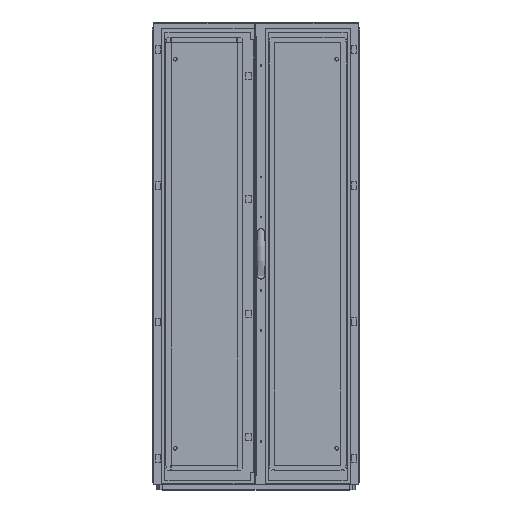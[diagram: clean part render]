
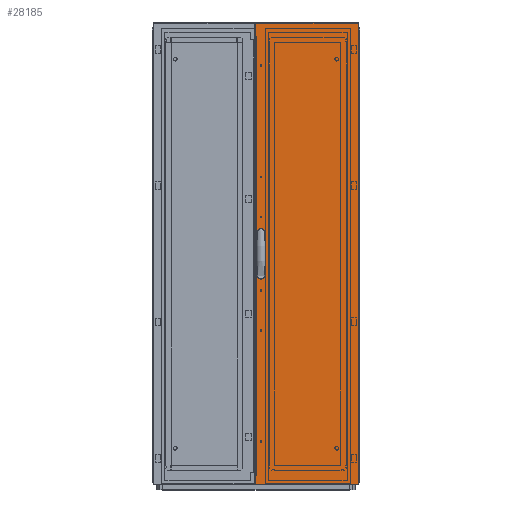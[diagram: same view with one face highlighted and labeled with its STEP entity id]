
A CAD part, top view. The second image highlights one B-rep face of the part: STEP entity #28185.
In plain terms, the highlighted planar face has unit normal (0, 0, 1) as drawn and (0, 0, -1) by its records, which use the part's own axes.
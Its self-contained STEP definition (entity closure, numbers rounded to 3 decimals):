
#341=CIRCLE('',#31742,2.6);
#342=CIRCLE('',#31743,2.6);
#2904=ORIENTED_EDGE('',*,*,#9924,.T.);
#2905=ORIENTED_EDGE('',*,*,#9925,.T.);
#2906=ORIENTED_EDGE('',*,*,#9926,.T.);
#2907=ORIENTED_EDGE('',*,*,#9927,.T.);
#2908=ORIENTED_EDGE('',*,*,#9928,.T.);
#2909=ORIENTED_EDGE('',*,*,#9929,.T.);
#2910=ORIENTED_EDGE('',*,*,#9930,.T.);
#2911=ORIENTED_EDGE('',*,*,#9931,.T.);
#2912=ORIENTED_EDGE('',*,*,#9932,.T.);
#2913=ORIENTED_EDGE('',*,*,#9933,.T.);
#2914=ORIENTED_EDGE('',*,*,#9934,.T.);
#2915=ORIENTED_EDGE('',*,*,#9935,.T.);
#2916=ORIENTED_EDGE('',*,*,#9936,.T.);
#2917=ORIENTED_EDGE('',*,*,#9937,.T.);
#2918=ORIENTED_EDGE('',*,*,#9938,.T.);
#2919=ORIENTED_EDGE('',*,*,#9939,.T.);
#2920=ORIENTED_EDGE('',*,*,#9940,.T.);
#2921=ORIENTED_EDGE('',*,*,#9941,.F.);
#2922=ORIENTED_EDGE('',*,*,#9942,.F.);
#2923=ORIENTED_EDGE('',*,*,#9943,.T.);
#2924=ORIENTED_EDGE('',*,*,#9944,.T.);
#2925=ORIENTED_EDGE('',*,*,#9945,.T.);
#9924=EDGE_CURVE('',#13612,#13613,#16547,.T.);
#9925=EDGE_CURVE('',#13613,#13614,#16548,.T.);
#9926=EDGE_CURVE('',#13614,#13615,#16549,.T.);
#9927=EDGE_CURVE('',#13615,#13616,#16550,.T.);
#9928=EDGE_CURVE('',#13616,#13617,#16551,.T.);
#9929=EDGE_CURVE('',#13617,#13618,#16552,.T.);
#9930=EDGE_CURVE('',#13618,#13619,#16553,.T.);
#9931=EDGE_CURVE('',#13619,#13620,#16554,.T.);
#9932=EDGE_CURVE('',#13620,#13621,#16555,.T.);
#9933=EDGE_CURVE('',#13621,#13622,#16556,.T.);
#9934=EDGE_CURVE('',#13622,#13623,#16557,.T.);
#9935=EDGE_CURVE('',#13623,#13624,#16558,.T.);
#9936=EDGE_CURVE('',#13624,#13625,#16559,.T.);
#9937=EDGE_CURVE('',#13625,#13626,#16560,.T.);
#9938=EDGE_CURVE('',#13626,#13627,#16561,.T.);
#9939=EDGE_CURVE('',#13627,#13612,#16562,.T.);
#9940=EDGE_CURVE('',#13628,#13629,#16563,.T.);
#9941=EDGE_CURVE('',#13630,#13629,#16564,.T.);
#9942=EDGE_CURVE('',#13631,#13630,#16565,.T.);
#9943=EDGE_CURVE('',#13631,#13628,#16566,.T.);
#9944=EDGE_CURVE('',#13632,#13632,#341,.T.);
#9945=EDGE_CURVE('',#13633,#13633,#342,.T.);
#13612=VERTEX_POINT('',#42969);
#13613=VERTEX_POINT('',#42970);
#13614=VERTEX_POINT('',#42972);
#13615=VERTEX_POINT('',#42974);
#13616=VERTEX_POINT('',#42976);
#13617=VERTEX_POINT('',#42978);
#13618=VERTEX_POINT('',#42980);
#13619=VERTEX_POINT('',#42982);
#13620=VERTEX_POINT('',#42984);
#13621=VERTEX_POINT('',#42986);
#13622=VERTEX_POINT('',#42988);
#13623=VERTEX_POINT('',#42990);
#13624=VERTEX_POINT('',#42992);
#13625=VERTEX_POINT('',#42994);
#13626=VERTEX_POINT('',#42996);
#13627=VERTEX_POINT('',#42998);
#13628=VERTEX_POINT('',#43001);
#13629=VERTEX_POINT('',#43002);
#13630=VERTEX_POINT('',#43004);
#13631=VERTEX_POINT('',#43006);
#13632=VERTEX_POINT('',#43009);
#13633=VERTEX_POINT('',#43011);
#16547=LINE('',#42968,#20166);
#16548=LINE('',#42971,#20167);
#16549=LINE('',#42973,#20168);
#16550=LINE('',#42975,#20169);
#16551=LINE('',#42977,#20170);
#16552=LINE('',#42979,#20171);
#16553=LINE('',#42981,#20172);
#16554=LINE('',#42983,#20173);
#16555=LINE('',#42985,#20174);
#16556=LINE('',#42987,#20175);
#16557=LINE('',#42989,#20176);
#16558=LINE('',#42991,#20177);
#16559=LINE('',#42993,#20178);
#16560=LINE('',#42995,#20179);
#16561=LINE('',#42997,#20180);
#16562=LINE('',#42999,#20181);
#16563=LINE('',#43000,#20182);
#16564=LINE('',#43003,#20183);
#16565=LINE('',#43005,#20184);
#16566=LINE('',#43007,#20185);
#20166=VECTOR('',#35151,1000.);
#20167=VECTOR('',#35152,1000.);
#20168=VECTOR('',#35153,1000.);
#20169=VECTOR('',#35154,1000.);
#20170=VECTOR('',#35155,1000.);
#20171=VECTOR('',#35156,1000.);
#20172=VECTOR('',#35157,1000.);
#20173=VECTOR('',#35158,1000.);
#20174=VECTOR('',#35159,1000.);
#20175=VECTOR('',#35160,1000.);
#20176=VECTOR('',#35161,1000.);
#20177=VECTOR('',#35162,1000.);
#20178=VECTOR('',#35163,1000.);
#20179=VECTOR('',#35164,1000.);
#20180=VECTOR('',#35165,1000.);
#20181=VECTOR('',#35166,1000.);
#20182=VECTOR('',#35167,1000.);
#20183=VECTOR('',#35168,1000.);
#20184=VECTOR('',#35169,1000.);
#20185=VECTOR('',#35170,1000.);
#23353=EDGE_LOOP('',(#2904,#2905,#2906,#2907,#2908,#2909,#2910,#2911,#2912,
#2913,#2914,#2915,#2916,#2917,#2918,#2919));
#23354=EDGE_LOOP('',(#2920,#2921,#2922,#2923));
#23355=EDGE_LOOP('',(#2924));
#23356=EDGE_LOOP('',(#2925));
#25149=FACE_BOUND('',#23353,.T.);
#25150=FACE_BOUND('',#23354,.T.);
#25151=FACE_BOUND('',#23355,.T.);
#25152=FACE_BOUND('',#23356,.T.);
#26799=PLANE('',#31741);
#28185=ADVANCED_FACE('',(#25149,#25150,#25151,#25152),#26799,.F.);
#31741=AXIS2_PLACEMENT_3D('',#42967,#35149,#35150);
#31742=AXIS2_PLACEMENT_3D('',#43008,#35171,#35172);
#31743=AXIS2_PLACEMENT_3D('',#43010,#35173,#35174);
#35149=DIRECTION('',(0.,0.,1.));
#35150=DIRECTION('',(1.,0.,0.));
#35151=DIRECTION('',(0.,-1.,0.));
#35152=DIRECTION('',(0.342,-0.94,0.));
#35153=DIRECTION('',(1.,0.,0.));
#35154=DIRECTION('',(0.,1.,0.));
#35155=DIRECTION('',(1.,0.,0.));
#35156=DIRECTION('',(0.,-1.,0.));
#35157=DIRECTION('',(1.,0.,0.));
#35158=DIRECTION('',(0.342,0.94,0.));
#35159=DIRECTION('',(0.,1.,0.));
#35160=DIRECTION('',(-0.342,0.94,0.));
#35161=DIRECTION('',(-1.,0.,0.));
#35162=DIRECTION('',(0.,-1.,0.));
#35163=DIRECTION('',(-1.,0.,0.));
#35164=DIRECTION('',(0.,1.,0.));
#35165=DIRECTION('',(-1.,0.,0.));
#35166=DIRECTION('',(-0.342,-0.94,0.));
#35167=DIRECTION('',(-1.,0.,0.));
#35168=DIRECTION('',(0.,-1.,0.));
#35169=DIRECTION('',(-1.,0.,0.));
#35170=DIRECTION('',(0.,-1.,0.));
#35171=DIRECTION('',(0.,0.,1.));
#35172=DIRECTION('',(1.,0.,0.));
#35173=DIRECTION('',(0.,0.,1.));
#35174=DIRECTION('',(1.,0.,0.));
#42967=CARTESIAN_POINT('',(199.,1782.,-16.8));
#42968=CARTESIAN_POINT('',(165.45,956.256,-16.8));
#42969=CARTESIAN_POINT('',(165.45,956.256,-16.8));
#42970=CARTESIAN_POINT('',(165.45,825.744,-16.8));
#42971=CARTESIAN_POINT('',(165.45,825.744,-16.8));
#42972=CARTESIAN_POINT('',(167.45,820.25,-16.8));
#42973=CARTESIAN_POINT('',(167.45,820.25,-16.8));
#42974=CARTESIAN_POINT('',(172.7,820.25,-16.8));
#42975=CARTESIAN_POINT('',(172.7,820.25,-16.8));
#42976=CARTESIAN_POINT('',(172.7,828.,-16.8));
#42977=CARTESIAN_POINT('',(172.7,828.,-16.8));
#42978=CARTESIAN_POINT('',(183.7,828.,-16.8));
#42979=CARTESIAN_POINT('',(183.7,828.,-16.8));
#42980=CARTESIAN_POINT('',(183.7,820.25,-16.8));
#42981=CARTESIAN_POINT('',(183.7,820.25,-16.8));
#42982=CARTESIAN_POINT('',(188.95,820.25,-16.8));
#42983=CARTESIAN_POINT('',(188.95,820.25,-16.8));
#42984=CARTESIAN_POINT('',(190.95,825.744,-16.8));
#42985=CARTESIAN_POINT('',(190.95,825.744,-16.8));
#42986=CARTESIAN_POINT('',(190.95,956.256,-16.8));
#42987=CARTESIAN_POINT('',(190.95,956.256,-16.8));
#42988=CARTESIAN_POINT('',(188.95,961.75,-16.8));
#42989=CARTESIAN_POINT('',(188.95,961.75,-16.8));
#42990=CARTESIAN_POINT('',(183.7,961.75,-16.8));
#42991=CARTESIAN_POINT('',(183.7,961.75,-16.8));
#42992=CARTESIAN_POINT('',(183.7,954.,-16.8));
#42993=CARTESIAN_POINT('',(183.7,954.,-16.8));
#42994=CARTESIAN_POINT('',(172.7,954.,-16.8));
#42995=CARTESIAN_POINT('',(172.7,954.,-16.8));
#42996=CARTESIAN_POINT('',(172.7,961.75,-16.8));
#42997=CARTESIAN_POINT('',(172.7,961.75,-16.8));
#42998=CARTESIAN_POINT('',(167.45,961.75,-16.8));
#42999=CARTESIAN_POINT('',(167.45,961.75,-16.8));
#43000=CARTESIAN_POINT('',(199.,0.,-16.8));
#43001=CARTESIAN_POINT('',(199.,0.,-16.8));
#43002=CARTESIAN_POINT('',(-199.,0.,-16.8));
#43003=CARTESIAN_POINT('',(-199.,1782.,-16.8));
#43004=CARTESIAN_POINT('',(-199.,1782.,-16.8));
#43005=CARTESIAN_POINT('',(199.,1782.,-16.8));
#43006=CARTESIAN_POINT('',(199.,1782.,-16.8));
#43007=CARTESIAN_POINT('',(199.,1782.,-16.8));
#43008=CARTESIAN_POINT('',(178.2,961.,-16.8));
#43009=CARTESIAN_POINT('',(180.8,961.,-16.8));
#43010=CARTESIAN_POINT('',(178.2,821.,-16.8));
#43011=CARTESIAN_POINT('',(180.8,821.,-16.8));
